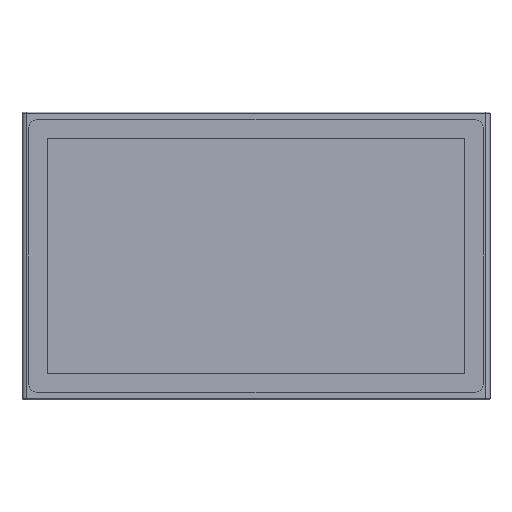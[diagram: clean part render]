
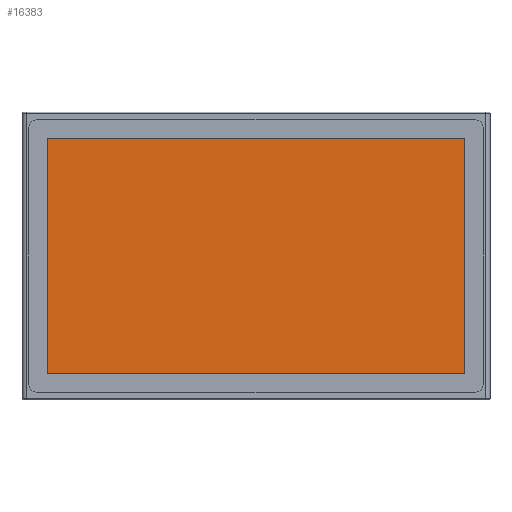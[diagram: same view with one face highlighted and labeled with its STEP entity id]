
A CAD part, left-side view. The second image highlights one B-rep face of the part: STEP entity #16383.
In plain terms, the highlighted planar face has unit normal (-1, 0, 0).
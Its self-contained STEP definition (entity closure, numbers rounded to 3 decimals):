
#4586=DIRECTION('',(0.,1.,0.));
#4587=VECTOR('',#4586,477.84);
#4588=CARTESIAN_POINT('',(0.2,-238.92,-134.655));
#4589=LINE('',#4588,#4587);
#4590=DIRECTION('',(0.,0.,1.));
#4591=VECTOR('',#4590,269.31);
#4592=CARTESIAN_POINT('',(0.2,238.92,-134.655));
#4593=LINE('',#4592,#4591);
#4594=DIRECTION('',(0.,-1.,0.));
#4595=VECTOR('',#4594,477.84);
#4596=CARTESIAN_POINT('',(0.2,238.92,134.655));
#4597=LINE('',#4596,#4595);
#4598=DIRECTION('',(0.,0.,-1.));
#4599=VECTOR('',#4598,269.31);
#4600=CARTESIAN_POINT('',(0.2,-238.92,134.655));
#4601=LINE('',#4600,#4599);
#6811=CARTESIAN_POINT('',(0.2,-238.92,-134.655));
#6812=VERTEX_POINT('',#6811);
#6813=CARTESIAN_POINT('',(0.2,238.92,-134.655));
#6814=VERTEX_POINT('',#6813);
#6815=CARTESIAN_POINT('',(0.2,238.92,134.655));
#6816=VERTEX_POINT('',#6815);
#6817=CARTESIAN_POINT('',(0.2,-238.92,134.655));
#6818=VERTEX_POINT('',#6817);
#16372=CARTESIAN_POINT('',(0.2,0.,0.));
#16373=DIRECTION('',(1.,0.,0.));
#16374=DIRECTION('',(0.,-1.,0.));
#16375=AXIS2_PLACEMENT_3D('',#16372,#16373,#16374);
#16376=PLANE('',#16375);
#16377=ORIENTED_EDGE('',*,*,#16324,.T.);
#16378=ORIENTED_EDGE('',*,*,#16339,.T.);
#16379=ORIENTED_EDGE('',*,*,#16353,.T.);
#16380=ORIENTED_EDGE('',*,*,#16366,.T.);
#16381=EDGE_LOOP('',(#16377,#16378,#16379,#16380));
#16382=FACE_OUTER_BOUND('',#16381,.F.);
#16383=ADVANCED_FACE('',(#16382),#16376,.F.);
#16324=EDGE_CURVE('',#6812,#6814,#4589,.T.);
#16339=EDGE_CURVE('',#6814,#6816,#4593,.T.);
#16353=EDGE_CURVE('',#6816,#6818,#4597,.T.);
#16366=EDGE_CURVE('',#6818,#6812,#4601,.T.);
